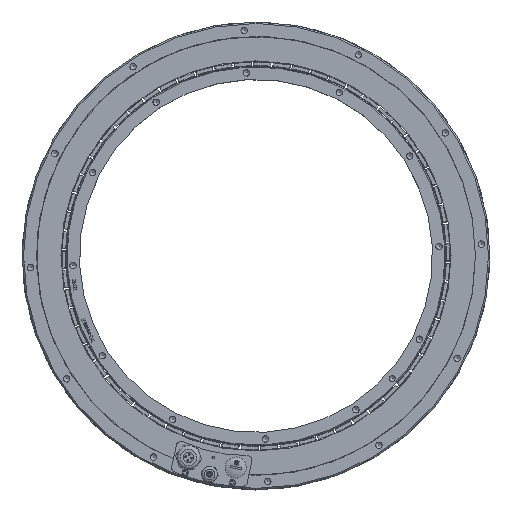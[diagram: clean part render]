
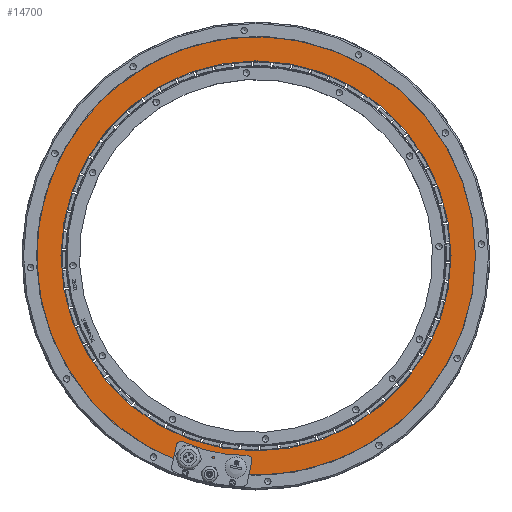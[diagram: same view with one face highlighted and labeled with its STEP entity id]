
A CAD part, top view. The second image highlights one B-rep face of the part: STEP entity #14700.
In plain terms, the highlighted planar face has unit normal (0, 0, 1).
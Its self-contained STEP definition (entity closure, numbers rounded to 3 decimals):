
#1653=CIRCLE('',#15898,202.2);
#1655=CIRCLE('',#15901,227.5);
#3435=ORIENTED_EDGE('',*,*,#5619,.T.);
#3436=ORIENTED_EDGE('',*,*,#5621,.F.);
#5619=EDGE_CURVE('',#6931,#6931,#1653,.T.);
#5621=EDGE_CURVE('',#6933,#6933,#1655,.T.);
#6931=VERTEX_POINT('',#21840);
#6933=VERTEX_POINT('',#21845);
#9099=EDGE_LOOP('',(#3435));
#9100=EDGE_LOOP('',(#3436));
#10145=FACE_BOUND('',#9099,.T.);
#10146=FACE_BOUND('',#9100,.T.);
#10734=PLANE('',#15903);
#14700=ADVANCED_FACE('',(#10145,#10146),#10734,.F.);
#15898=AXIS2_PLACEMENT_3D('',#21839,#18341,#18342);
#15901=AXIS2_PLACEMENT_3D('',#21844,#18347,#18348);
#15903=AXIS2_PLACEMENT_3D('',#21848,#18351,#18352);
#18341=DIRECTION('',(0.,0.,-1.));
#18342=DIRECTION('',(1.,0.,0.));
#18347=DIRECTION('',(0.,0.,-1.));
#18348=DIRECTION('',(1.,0.,0.));
#18351=DIRECTION('',(0.,0.,-1.));
#18352=DIRECTION('',(-1.,0.,0.));
#21839=CARTESIAN_POINT('',(0.,0.,42.5));
#21840=CARTESIAN_POINT('',(202.2,0.,42.5));
#21844=CARTESIAN_POINT('',(0.,0.,42.5));
#21845=CARTESIAN_POINT('',(227.5,0.,42.5));
#21848=CARTESIAN_POINT('',(0.,0.,42.5));
